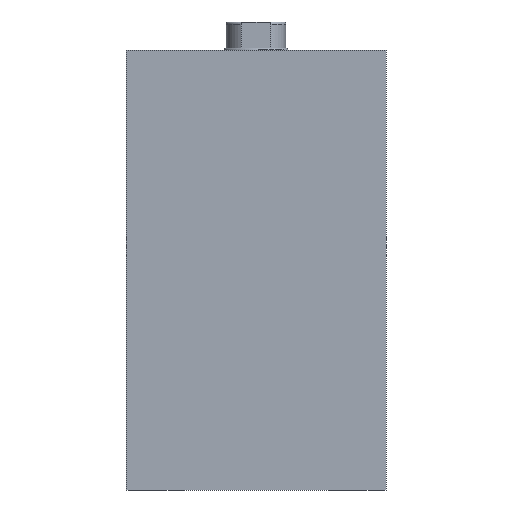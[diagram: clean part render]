
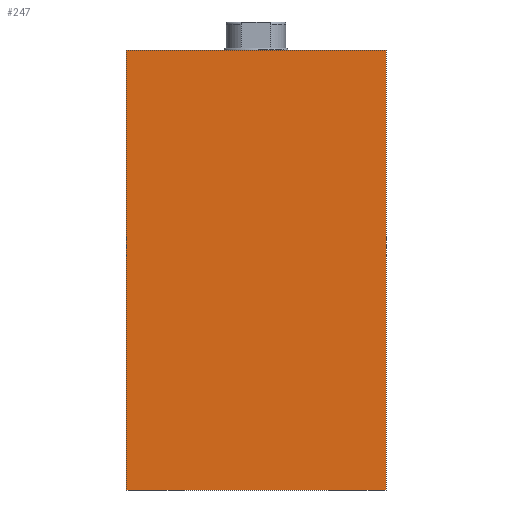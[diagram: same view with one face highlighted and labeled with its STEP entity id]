
A CAD part, left-side view. The second image highlights one B-rep face of the part: STEP entity #247.
In plain terms, the highlighted planar face has unit normal (-1, 0, 0) as drawn and (0, 0, -1) by its records, which use the part's own axes.
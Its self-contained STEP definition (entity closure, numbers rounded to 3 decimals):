
#247 = ADVANCED_FACE( '', ( #338 ), #339, .F. );
#338 = FACE_OUTER_BOUND( '', #554, .T. );
#339 = PLANE( '', #555 );
#554 = EDGE_LOOP( '', ( #789, #790, #791, #792 ) );
#555 = AXIS2_PLACEMENT_3D( '', #793, #794, #795 );
#789 = ORIENTED_EDGE( '', *, *, #1166, .T. );
#790 = ORIENTED_EDGE( '', *, *, #1183, .F. );
#791 = ORIENTED_EDGE( '', *, *, #1178, .F. );
#792 = ORIENTED_EDGE( '', *, *, #1182, .T. );
#793 = CARTESIAN_POINT( '', ( 110., -32.5, -22.5 ) );
#794 = DIRECTION( '', ( 0., 0., 1. ) );
#795 = DIRECTION( '', ( 1., 0., 0. ) );
#1166 = EDGE_CURVE( '', #1267, #1265, #1268, .T. );
#1178 = EDGE_CURVE( '', #1287, #1289, #1290, .T. );
#1182 = EDGE_CURVE( '', #1287, #1267, #1296, .T. );
#1183 = EDGE_CURVE( '', #1289, #1265, #1297, .T. );
#1265 = VERTEX_POINT( '', #1510 );
#1267 = VERTEX_POINT( '', #1513 );
#1268 = LINE( '', #1514, #1515 );
#1287 = VERTEX_POINT( '', #1706 );
#1289 = VERTEX_POINT( '', #1709 );
#1290 = LINE( '', #1710, #1711 );
#1296 = B_SPLINE_CURVE_WITH_KNOTS( '', 1, ( #1784, #1785 ), .UNSPECIFIED., .F., .F., ( 2, 2 ), ( 0., 1. ), .UNSPECIFIED. );
#1297 = B_SPLINE_CURVE_WITH_KNOTS( '', 1, ( #1786, #1787 ), .UNSPECIFIED., .F., .F., ( 2, 2 ), ( 0., 1. ), .UNSPECIFIED. );
#1510 = CARTESIAN_POINT( '', ( 0., 32.5, -22.5 ) );
#1513 = CARTESIAN_POINT( '', ( 0., -32.5, -22.5 ) );
#1514 = CARTESIAN_POINT( '', ( 0., -32.5, -22.5 ) );
#1515 = VECTOR( '', #3898, 1000. );
#1706 = CARTESIAN_POINT( '', ( 110., -32.5, -22.5 ) );
#1709 = CARTESIAN_POINT( '', ( 110., 32.5, -22.5 ) );
#1710 = CARTESIAN_POINT( '', ( 110., -32.5, -22.5 ) );
#1711 = VECTOR( '', #3905, 1000. );
#1784 = CARTESIAN_POINT( '', ( 110., -32.5, -22.5 ) );
#1785 = CARTESIAN_POINT( '', ( 0., -32.5, -22.5 ) );
#1786 = CARTESIAN_POINT( '', ( 110., 32.5, -22.5 ) );
#1787 = CARTESIAN_POINT( '', ( 0., 32.5, -22.5 ) );
#3898 = DIRECTION( '', ( 0., 1., 0. ) );
#3905 = DIRECTION( '', ( 0., 1., 0. ) );
